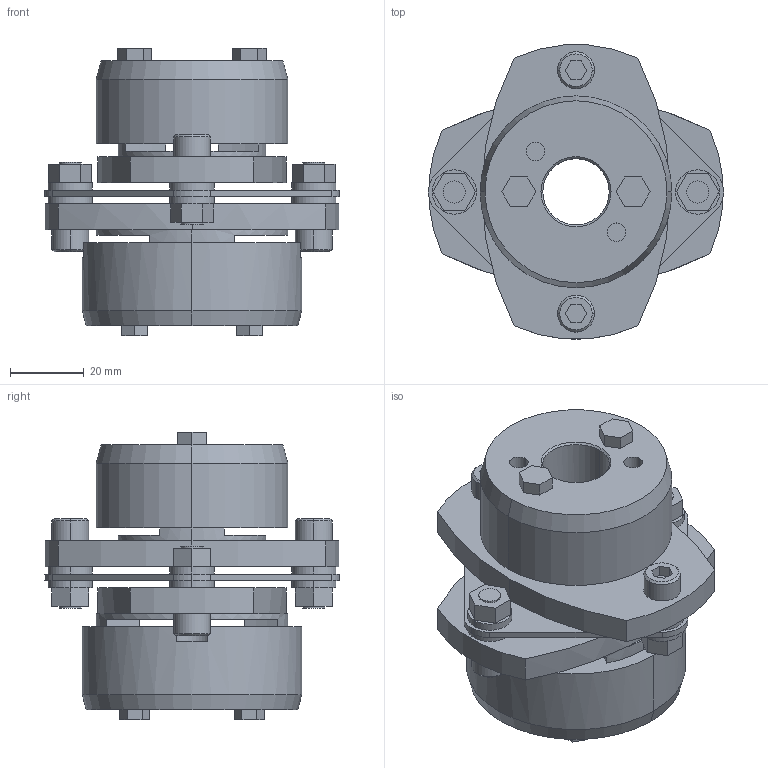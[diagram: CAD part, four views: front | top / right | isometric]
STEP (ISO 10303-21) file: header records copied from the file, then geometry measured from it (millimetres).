
FILE_DESCRIPTION((''),'2;1');
FILE_NAME('LCS-80T7-18×32.stp','2011-09-12T15:07:54',(''),(''),'AutoCAD STEP 2000i','AutoCAD 2000i',', , ');
FILE_SCHEMA(('CONFIG_CONTROL_DESIGN'));
Length unit declared in the file: millimetre
Products named in the file (11): LCS-80T7-17×32; 忣兜1; LC80T7-T032; LC80T7-T030; LC80T7-T028; LC80T7-T024; LC80T7-T022; LC80T7-T019; LC80T7-T017-1; LC80T7-T017; LCS80-ITA
Assembly tree (10 placements, depth 2):
  LCS-80T7-17×32
    忣兜1
    LC80T7-T032
    LC80T7-T030
    LC80T7-T028
    LC80T7-T024
    LC80T7-T022
    LC80T7-T019
    LC80T7-T017-1
    LC80T7-T017
    LCS80-ITA
Bounding box: 80 x 79.95 x 78.05 mm (x, y, z)
Volume: 141689.4 mm3; surface area: 42169.1 mm2
Topology: 1 solids, 1 shells, 239 faces, 588 edges, 384 vertices
Faces by surface type: plane 137, cylinder 82, cone 20
Entity records: 7353 total; most frequent: DIRECTION 1300, CARTESIAN_POINT 1222, ORIENTED_EDGE 1176, EDGE_CURVE 588, AXIS2_PLACEMENT_3D 462, VERTEX_POINT 384, VECTOR 376, LINE 376
